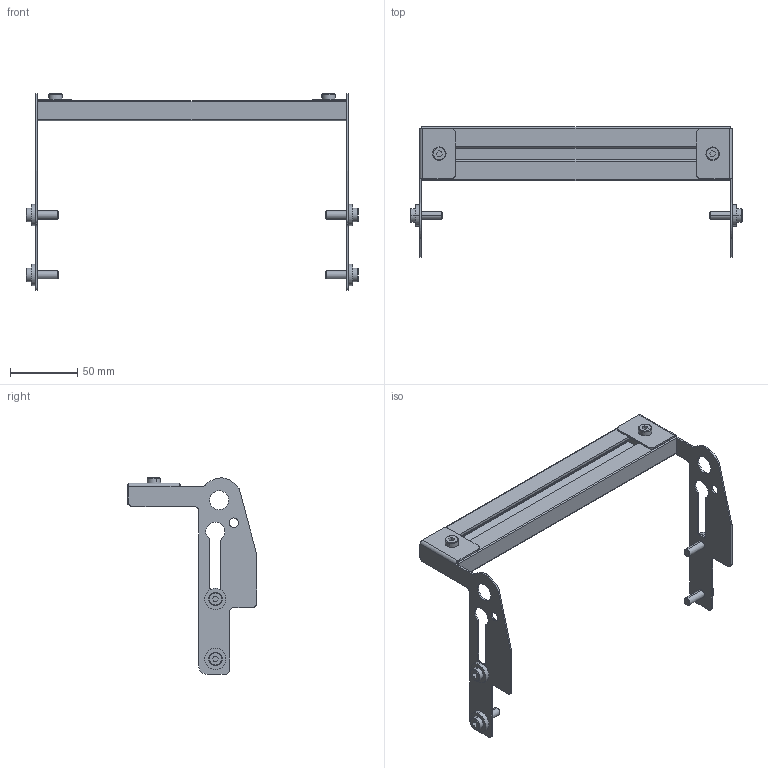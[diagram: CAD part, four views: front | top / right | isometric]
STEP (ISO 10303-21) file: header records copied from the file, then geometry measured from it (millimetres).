
FILE_DESCRIPTION((''),'2;1');
FILE_NAME('207215-08_ASM','2018-03-20T',('james.horst'),(''),'PRO/ENGINEER BY PARAMETRIC TECHNOLOGY CORPORATION, 2012420','PRO/ENGINEER BY PARAMETRIC TECHNOLOGY CORPORATION, 2012420','');
FILE_SCHEMA(('CONFIG_CONTROL_DESIGN'));
Length unit declared in the file: inch
Products named in the file (9): 9506XXM_950612M; 9506XXM_950620M; 605279P; 207132-LH; 834-FASN-M6; 207217-WW_207217-08; 207132-RH; ASM0001_ASM; 207215-08_ASM
Assembly tree (16 placements, depth 3):
  207215-08_ASM
    ASM0001_ASM
      9506XXM_950612M  x2
      9506XXM_950620M  x4
      605279P  x4
      207132-LH
      834-FASN-M6  x2
      207217-WW_207217-08
      207132-RH
Bounding box: 246.15 x 96.26 x 145.81 mm (x, y, z)
Volume: 86969.9 mm3; surface area: 87415.3 mm2
Topology: 15 solids, 15 shells, 326 faces, 825 edges, 541 vertices
Faces by surface type: plane 154, cylinder 148, cone 24
Entity records: 7706 total; most frequent: DIRECTION 1396, CARTESIAN_POINT 1335, ORIENTED_EDGE 1238, EDGE_CURVE 619, AXIS2_PLACEMENT_3D 517, VERTEX_POINT 409, VECTOR 362, LINE 362
